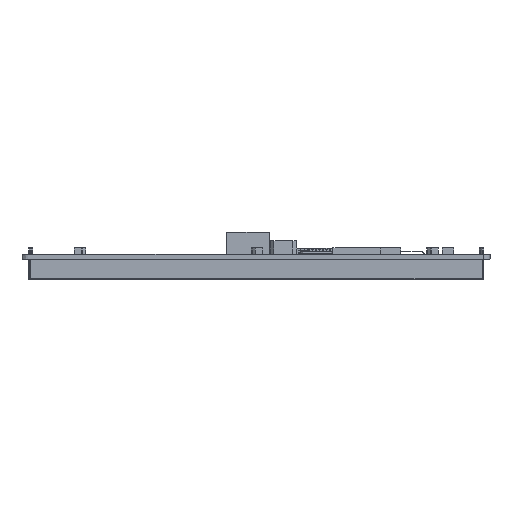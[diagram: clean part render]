
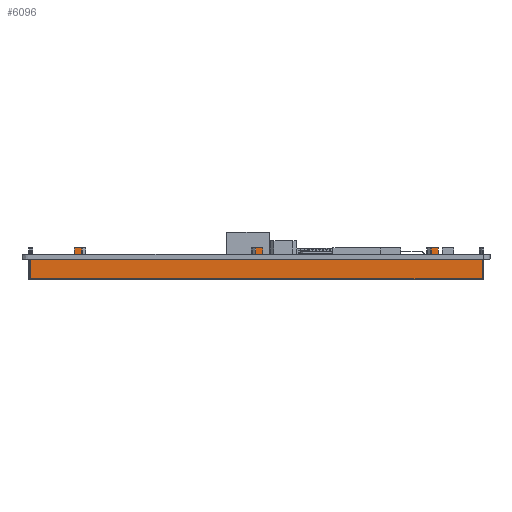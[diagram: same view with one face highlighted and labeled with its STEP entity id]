
A CAD part, left-side view. The second image highlights one B-rep face of the part: STEP entity #6096.
In plain terms, the highlighted planar face has unit normal (-1, 0, 0).
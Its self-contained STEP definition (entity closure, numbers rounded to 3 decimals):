
#3837=PLANE('',#51213);
#6096=ADVANCED_FACE('',(#8865),#3837,.T.);
#8865=FACE_OUTER_BOUND('',#11222,.T.);
#11222=EDGE_LOOP('',(#24212,#24213,#24214,#24215,#24216,#24217,#24218,#24219,
#24220,#24221,#24222,#24223,#24224,#24225,#24226,#24227,#24228,#24229,#24230,
#24231,#24232,#24233));
#24212=ORIENTED_EDGE('',*,*,#36242,.F.);
#24213=ORIENTED_EDGE('',*,*,#36243,.T.);
#24214=ORIENTED_EDGE('',*,*,#36244,.T.);
#24215=ORIENTED_EDGE('',*,*,#36245,.F.);
#24216=ORIENTED_EDGE('',*,*,#36246,.F.);
#24217=ORIENTED_EDGE('',*,*,#36247,.F.);
#24218=ORIENTED_EDGE('',*,*,#36248,.T.);
#24219=ORIENTED_EDGE('',*,*,#36249,.T.);
#24220=ORIENTED_EDGE('',*,*,#36250,.T.);
#24221=ORIENTED_EDGE('',*,*,#36239,.F.);
#24222=ORIENTED_EDGE('',*,*,#36251,.F.);
#24223=ORIENTED_EDGE('',*,*,#36252,.F.);
#24224=ORIENTED_EDGE('',*,*,#36253,.T.);
#24225=ORIENTED_EDGE('',*,*,#36254,.T.);
#24226=ORIENTED_EDGE('',*,*,#36255,.T.);
#24227=ORIENTED_EDGE('',*,*,#36235,.F.);
#24228=ORIENTED_EDGE('',*,*,#36256,.F.);
#24229=ORIENTED_EDGE('',*,*,#36257,.T.);
#24230=ORIENTED_EDGE('',*,*,#36258,.F.);
#24231=ORIENTED_EDGE('',*,*,#36259,.F.);
#24232=ORIENTED_EDGE('',*,*,#36260,.T.);
#24233=ORIENTED_EDGE('',*,*,#36233,.F.);
#29780=VERTEX_POINT('',#75906);
#29782=VERTEX_POINT('',#75910);
#29783=VERTEX_POINT('',#75914);
#29785=VERTEX_POINT('',#75917);
#29787=VERTEX_POINT('',#75923);
#29789=VERTEX_POINT('',#75926);
#29791=VERTEX_POINT('',#75932);
#29792=VERTEX_POINT('',#75934);
#29793=VERTEX_POINT('',#75936);
#29794=VERTEX_POINT('',#75938);
#29795=VERTEX_POINT('',#75940);
#29796=VERTEX_POINT('',#75942);
#29797=VERTEX_POINT('',#75944);
#29798=VERTEX_POINT('',#75946);
#29799=VERTEX_POINT('',#75949);
#29800=VERTEX_POINT('',#75951);
#29801=VERTEX_POINT('',#75953);
#29802=VERTEX_POINT('',#75955);
#29803=VERTEX_POINT('',#75958);
#29804=VERTEX_POINT('',#75960);
#29805=VERTEX_POINT('',#75962);
#29806=VERTEX_POINT('',#75964);
#36233=EDGE_CURVE('',#29782,#29780,#42172,.T.);
#36235=EDGE_CURVE('',#29783,#29785,#42174,.T.);
#36239=EDGE_CURVE('',#29787,#29789,#42178,.T.);
#36242=EDGE_CURVE('',#29791,#29782,#42181,.T.);
#36243=EDGE_CURVE('',#29791,#29792,#42182,.T.);
#36244=EDGE_CURVE('',#29792,#29793,#42183,.T.);
#36245=EDGE_CURVE('',#29794,#29793,#42184,.T.);
#36246=EDGE_CURVE('',#29795,#29794,#42185,.T.);
#36247=EDGE_CURVE('',#29796,#29795,#42186,.T.);
#36248=EDGE_CURVE('',#29796,#29797,#42187,.T.);
#36249=EDGE_CURVE('',#29797,#29798,#42188,.T.);
#36250=EDGE_CURVE('',#29798,#29789,#42189,.T.);
#36251=EDGE_CURVE('',#29799,#29787,#42190,.T.);
#36252=EDGE_CURVE('',#29800,#29799,#42191,.T.);
#36253=EDGE_CURVE('',#29800,#29801,#42192,.T.);
#36254=EDGE_CURVE('',#29801,#29802,#42193,.T.);
#36255=EDGE_CURVE('',#29802,#29785,#42194,.T.);
#36256=EDGE_CURVE('',#29803,#29783,#42195,.T.);
#36257=EDGE_CURVE('',#29803,#29804,#42196,.T.);
#36258=EDGE_CURVE('',#29805,#29804,#42197,.T.);
#36259=EDGE_CURVE('',#29806,#29805,#42198,.T.);
#36260=EDGE_CURVE('',#29806,#29780,#42199,.T.);
#42172=LINE('',#75911,#47853);
#42174=LINE('',#75916,#47855);
#42178=LINE('',#75925,#47859);
#42181=LINE('',#75931,#47862);
#42182=LINE('',#75933,#47863);
#42183=LINE('',#75935,#47864);
#42184=LINE('',#75937,#47865);
#42185=LINE('',#75939,#47866);
#42186=LINE('',#75941,#47867);
#42187=LINE('',#75943,#47868);
#42188=LINE('',#75945,#47869);
#42189=LINE('',#75947,#47870);
#42190=LINE('',#75948,#47871);
#42191=LINE('',#75950,#47872);
#42192=LINE('',#75952,#47873);
#42193=LINE('',#75954,#47874);
#42194=LINE('',#75956,#47875);
#42195=LINE('',#75957,#47876);
#42196=LINE('',#75959,#47877);
#42197=LINE('',#75961,#47878);
#42198=LINE('',#75963,#47879);
#42199=LINE('',#75965,#47880);
#47853=VECTOR('',#62242,1.);
#47855=VECTOR('',#62246,1.);
#47859=VECTOR('',#62252,1.);
#47862=VECTOR('',#62257,1.);
#47863=VECTOR('',#62258,1.);
#47864=VECTOR('',#62259,1.);
#47865=VECTOR('',#62260,1.);
#47866=VECTOR('',#62261,1.);
#47867=VECTOR('',#62262,1.);
#47868=VECTOR('',#62263,1.);
#47869=VECTOR('',#62264,1.);
#47870=VECTOR('',#62265,1.);
#47871=VECTOR('',#62266,1.);
#47872=VECTOR('',#62267,1.);
#47873=VECTOR('',#62268,1.);
#47874=VECTOR('',#62269,1.);
#47875=VECTOR('',#62270,1.);
#47876=VECTOR('',#62271,1.);
#47877=VECTOR('',#62272,1.);
#47878=VECTOR('',#62273,1.);
#47879=VECTOR('',#62274,1.);
#47880=VECTOR('',#62275,1.);
#51213=AXIS2_PLACEMENT_3D('',#75966,#62276,#62277);
#62242=DIRECTION('',(0.,-1.,0.));
#62246=DIRECTION('',(0.,-1.,0.));
#62252=DIRECTION('',(0.,-1.,0.));
#62257=DIRECTION('',(0.,0.,1.));
#62258=DIRECTION('',(0.,-1.,0.));
#62259=DIRECTION('',(0.,0.,1.));
#62260=DIRECTION('',(0.,-1.,0.));
#62261=DIRECTION('',(0.,0.,-1.));
#62262=DIRECTION('',(0.,-1.,0.));
#62263=DIRECTION('',(0.,0.,-1.));
#62264=DIRECTION('',(0.,-1.,0.));
#62265=DIRECTION('',(0.,0.,-1.));
#62266=DIRECTION('',(0.,0.,-1.));
#62267=DIRECTION('',(0.,-1.,0.));
#62268=DIRECTION('',(0.,0.,-1.));
#62269=DIRECTION('',(0.,-1.,0.));
#62270=DIRECTION('',(0.,0.,-1.));
#62271=DIRECTION('',(0.,0.,-1.));
#62272=DIRECTION('',(0.,-1.,0.));
#62273=DIRECTION('',(0.,0.,-1.));
#62274=DIRECTION('',(0.,-1.,0.));
#62275=DIRECTION('',(0.,0.,-1.));
#62276=DIRECTION('',(-1.,0.,0.));
#62277=DIRECTION('',(0.,1.,0.));
#75906=CARTESIAN_POINT('',(1013.555,86.184,-1.6));
#75910=CARTESIAN_POINT('',(1013.555,100.243,-1.6));
#75911=CARTESIAN_POINT('',(1013.555,100.243,-1.6));
#75914=CARTESIAN_POINT('',(1013.555,84.184,-1.6));
#75916=CARTESIAN_POINT('',(1013.555,100.243,-1.6));
#75917=CARTESIAN_POINT('',(1013.555,28.708,-1.6));
#75923=CARTESIAN_POINT('',(1013.555,26.708,-1.6));
#75925=CARTESIAN_POINT('',(1013.555,100.243,-1.6));
#75926=CARTESIAN_POINT('',(1013.555,-26.802,-1.6));
#75931=CARTESIAN_POINT('',(1013.555,100.243,-8.1));
#75932=CARTESIAN_POINT('',(1013.555,100.243,-7.7));
#75933=CARTESIAN_POINT('',(1013.555,-42.757,-7.7));
#75934=CARTESIAN_POINT('',(1013.555,-42.757,-7.7));
#75935=CARTESIAN_POINT('',(1013.555,-42.757,-8.1));
#75936=CARTESIAN_POINT('',(1013.555,-42.757,-1.6));
#75937=CARTESIAN_POINT('',(1013.555,100.243,-1.6));
#75938=CARTESIAN_POINT('',(1013.555,-28.802,-1.6));
#75939=CARTESIAN_POINT('',(1013.555,-28.802,2.));
#75940=CARTESIAN_POINT('',(1013.555,-28.802,2.));
#75941=CARTESIAN_POINT('',(1013.555,-26.575,2.));
#75942=CARTESIAN_POINT('',(1013.555,-26.575,2.));
#75943=CARTESIAN_POINT('',(1013.555,-26.575,2.));
#75944=CARTESIAN_POINT('',(1013.555,-26.575,0.));
#75945=CARTESIAN_POINT('',(1013.555,-26.575,0.));
#75946=CARTESIAN_POINT('',(1013.555,-26.802,0.));
#75947=CARTESIAN_POINT('',(1013.555,-26.802,0.));
#75948=CARTESIAN_POINT('',(1013.555,26.708,0.));
#75949=CARTESIAN_POINT('',(1013.555,26.708,2.));
#75950=CARTESIAN_POINT('',(1013.555,28.935,2.));
#75951=CARTESIAN_POINT('',(1013.555,28.935,2.));
#75952=CARTESIAN_POINT('',(1013.555,28.935,2.));
#75953=CARTESIAN_POINT('',(1013.555,28.935,0.));
#75954=CARTESIAN_POINT('',(1013.555,28.935,0.));
#75955=CARTESIAN_POINT('',(1013.555,28.708,0.));
#75956=CARTESIAN_POINT('',(1013.555,28.708,0.));
#75957=CARTESIAN_POINT('',(1013.555,84.184,0.));
#75958=CARTESIAN_POINT('',(1013.555,84.184,0.));
#75959=CARTESIAN_POINT('',(1013.555,86.184,0.));
#75960=CARTESIAN_POINT('',(1013.555,83.957,0.));
#75961=CARTESIAN_POINT('',(1013.555,83.957,2.));
#75962=CARTESIAN_POINT('',(1013.555,83.957,2.));
#75963=CARTESIAN_POINT('',(1013.555,86.184,2.));
#75964=CARTESIAN_POINT('',(1013.555,86.184,2.));
#75965=CARTESIAN_POINT('',(1013.555,86.184,0.));
#75966=CARTESIAN_POINT('',(1013.555,100.243,-8.1));
